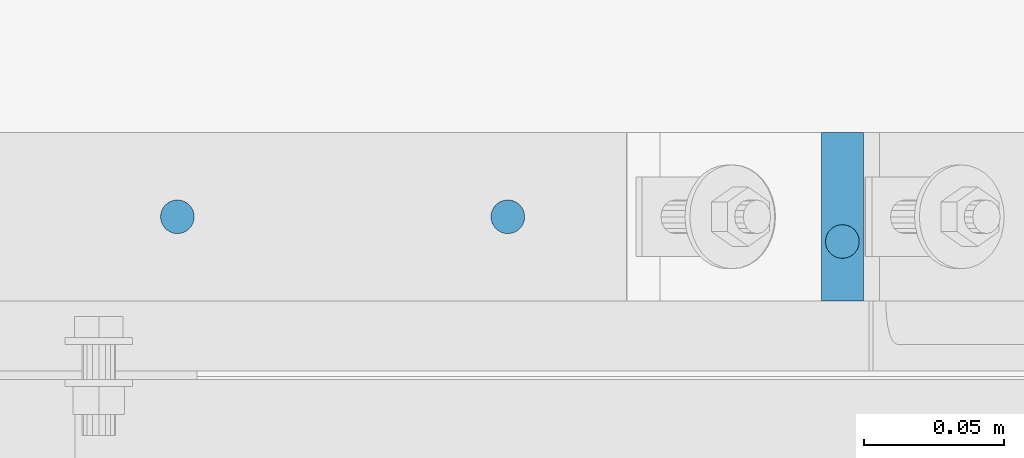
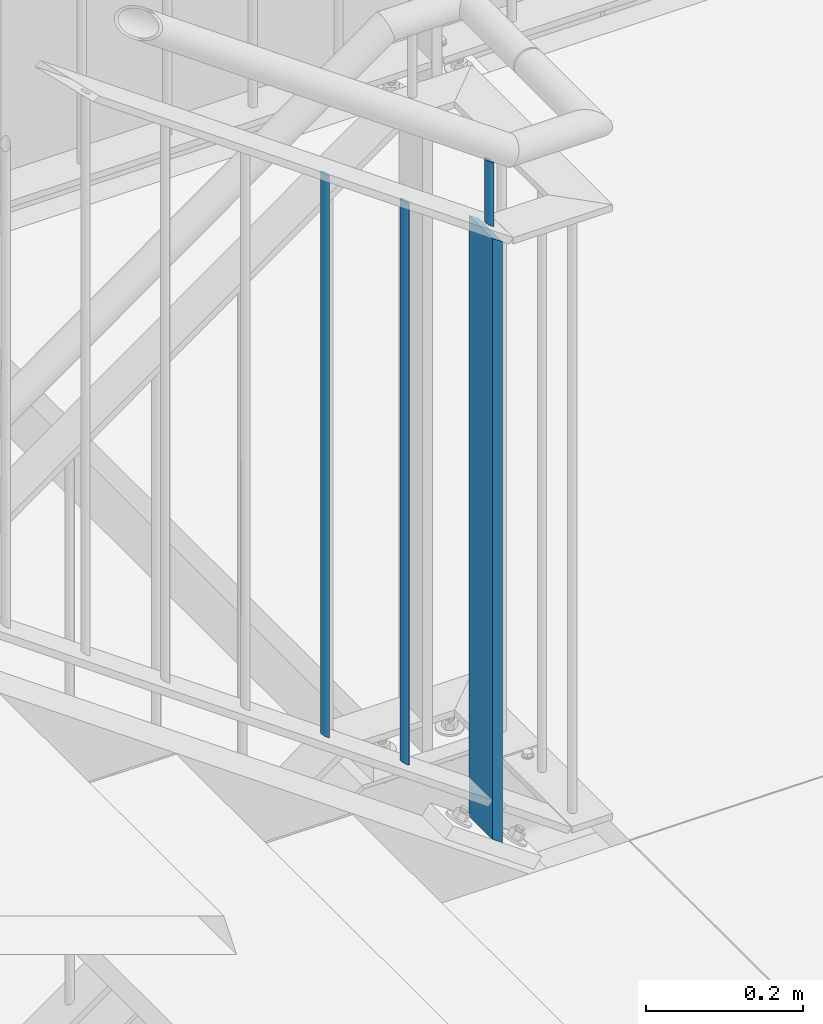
# One storey, part 94 of 825: 4 columns.
"""IFC2X3 building model written with IfcOpenShell, lengths in millimetres."""

from ifc_helpers import new_model, entity, si_unit, converted_unit, frame, origin, origin_with_axes, origin_2d, place, context, project, spatial, rectangle, circle, extrude, clip, halfspace, material, element, save


model = new_model("IFC2X3")

# Units and contexts
model_context = context("Model", 3, precision=1e-09, world=origin_with_axes())
ifc_project = project(units=[si_unit("LENGTHUNIT", "METRE", prefix="MILLI"), si_unit("AREAUNIT", "SQUARE_METRE"), si_unit("VOLUMEUNIT", "CUBIC_METRE"), converted_unit("PLANEANGLEUNIT", "DEGREE", entity("IfcPlaneAngleMeasure", 0.01745329), si_unit("PLANEANGLEUNIT", "RADIAN"), dimensions=[0, 0, 0, 0, 0, 0, 0])], contexts=[model_context])

# Site, building, storey
site_placement = place(None, origin_with_axes())
site = spatial("IfcSite", under=ifc_project, at=site_placement, Name="Cnopf'sche Kinderklinik", CompositionType="ELEMENT")
building_placement = place(site_placement, origin_with_axes())
building = spatial("IfcBuilding", under=site, at=building_placement, Name="Struktur 1", CompositionType="ELEMENT")
storey_placement = place(building_placement, origin_with_axes())
storey = spatial("IfcBuildingStorey", under=building, at=storey_placement, Name="Default Storey", CompositionType="ELEMENT", Elevation=0.0)

# Columns
ifc_material = material(Name="S235JR")
column_1_placement = place(None, frame((7546.714402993, 5791.736971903, 3242.070547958), z_axis=(0.0, 0.0, 1.0), x_axis=(-1.0, 0.0, 0.0)))
element("IfcColumn", 1, at=column_1_placement, inside=storey, material=ifc_material, Name="Railing_Post_Stair#0", ObjectType="Railing_Post_Stair#0", context=model_context, shape_type="Clipping", body=[
    clip(clip(extrude(rectangle(XDim=15.0, YDim=60.0, at=origin_2d()), origin(), (0.0, 0.0, -1.0), 1013.069146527), halfspace(frame((3937.162554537, 5791.736971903, 1827.928350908), z_axis=(-0.579973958, 0.0, 0.814635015), x_axis=(0.0, -1.0, 0.0)), True)), halfspace(frame((3494.391287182, 5791.736971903, 2449.847617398), z_axis=(0.579973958, 0.0, -0.814635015), x_axis=(0.0, 1.0, 0.0)), True)),
])
column_2_placement = place(None, frame((7427.464402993, 5791.736971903, 3299.426152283), z_axis=(0.0, 0.0, 1.0), x_axis=(-1.0, 0.0, 0.0)))
element("IfcColumn", 2, at=column_2_placement, inside=storey, material=ifc_material, Name="Railing_Picket_Stair#0", ObjectType="Railing_Picket_Stair#0", context=model_context, shape_type="Clipping", body=[
    clip(clip(extrude(circle(Radius=6.0, at=origin_2d()), origin(), (0.0, 0.0, -1.0), 896.604693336), halfspace(frame((3375.141287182, 5791.736971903, 2392.492013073), z_axis=(0.579973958, 0.0, -0.814635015), x_axis=(0.0, 1.0, 0.0)), True)), halfspace(frame((3788.91385666, 5791.736971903, 1811.304497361), z_axis=(-0.579973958, 0.0, 0.814635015), x_axis=(0.0, -1.0, 0.0)), True)),
])
column_3_placement = place(None, frame((7309.714347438, 5791.736971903, 3383.257517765), z_axis=(0.0, 0.0, 1.0), x_axis=(-1.0, 0.0, 0.0)))
element("IfcColumn", 3, at=column_3_placement, inside=storey, material=ifc_material, Name="Railing_Picket_Stair#1", ObjectType="Railing_Picket_Stair#1", context=model_context, shape_type="Clipping", body=[
    clip(clip(extrude(circle(Radius=6.0, at=origin_2d()), origin(), (0.0, 0.0, -1.0), 896.604693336), halfspace(frame((3257.391231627, 5791.736971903, 2308.660647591), z_axis=(0.579973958, 0.0, -0.814635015), x_axis=(0.0, 1.0, 0.0)), True)), halfspace(frame((3671.163801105, 5791.736971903, 1727.473131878), z_axis=(-0.579973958, 0.0, 0.814635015), x_axis=(0.0, -1.0, 0.0)), True)),
])
column_4_placement = place(None, frame((7546.714402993, 5782.936971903, 3326.802347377), z_axis=(0.0, 0.0, 1.0), x_axis=(0.0, 1.0, 0.0)))
element("IfcColumn", 4, at=column_4_placement, inside=storey, material=ifc_material, Name="Bar#0", ObjectType="Bar#0", context=model_context, shape_type="Clipping", body=[
    clip(clip(extrude(circle(Radius=6.0, at=origin_2d()), origin(), (0.0, 0.0, -1.0), 120.832105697), halfspace(frame((-5782.936971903, 3488.590387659, 2373.263797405), z_axis=(0.0, -0.579973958, 0.814635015), x_axis=(1.0, 0.0, 0.0)), True)), halfspace(frame((-5782.936971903, 3441.344838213, 2439.62518899), z_axis=(0.0, 0.579973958, -0.814635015), x_axis=(-1.0, 0.0, 0.0)), True)),
])

save(model, "model.ifc")
